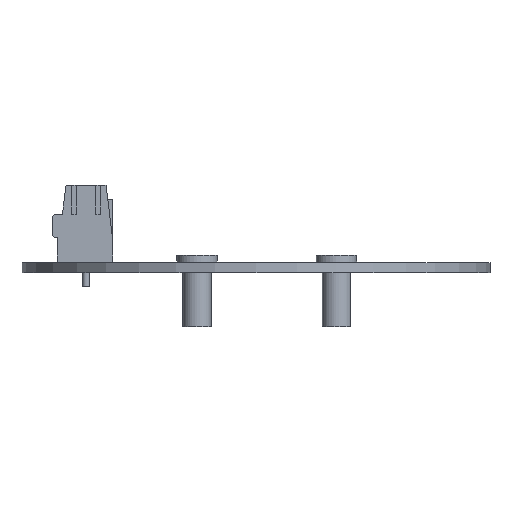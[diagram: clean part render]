
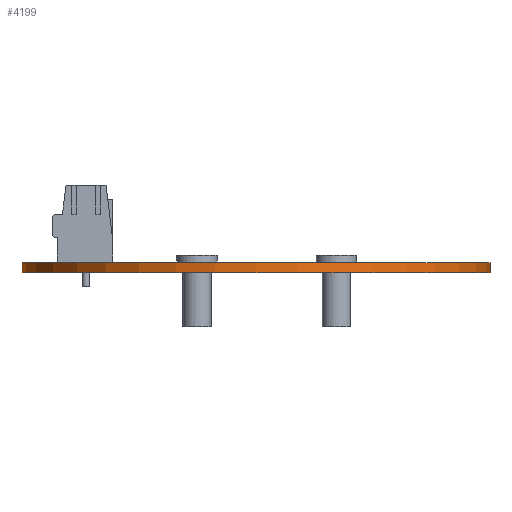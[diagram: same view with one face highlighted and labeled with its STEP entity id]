
A CAD part, front view. The second image highlights one B-rep face of the part: STEP entity #4199.
In plain terms, the highlighted cylindrical face has radius 34.764 mm (diameter 69.527 mm), a full revolution.
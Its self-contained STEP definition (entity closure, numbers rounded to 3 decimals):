
#4199 = ADVANCED_FACE('',(#4200),#4227,.T.);
#4200 = FACE_BOUND('',#4201,.F.);
#4201 = EDGE_LOOP('',(#4202,#4212,#4219,#4220));
#4202 = ORIENTED_EDGE('',*,*,#4203,.T.);
#4203 = EDGE_CURVE('',#4204,#4206,#4208,.T.);
#4204 = VERTEX_POINT('',#4205);
#4205 = CARTESIAN_POINT('',(116.013,-55.675,0.));
#4206 = VERTEX_POINT('',#4207);
#4207 = CARTESIAN_POINT('',(116.013,-55.675,1.51));
#4208 = LINE('',#4209,#4210);
#4209 = CARTESIAN_POINT('',(116.013,-55.675,0.));
#4210 = VECTOR('',#4211,1.);
#4211 = DIRECTION('',(0.,0.,1.));
#4212 = ORIENTED_EDGE('',*,*,#4213,.T.);
#4213 = EDGE_CURVE('',#4206,#4206,#4214,.T.);
#4214 = CIRCLE('',#4215,34.763);
#4215 = AXIS2_PLACEMENT_3D('',#4216,#4217,#4218);
#4216 = CARTESIAN_POINT('',(81.25,-55.675,1.51));
#4217 = DIRECTION('',(0.,0.,1.));
#4218 = DIRECTION('',(1.,0.,-0.));
#4219 = ORIENTED_EDGE('',*,*,#4203,.F.);
#4220 = ORIENTED_EDGE('',*,*,#4221,.F.);
#4221 = EDGE_CURVE('',#4204,#4204,#4222,.T.);
#4222 = CIRCLE('',#4223,34.763);
#4223 = AXIS2_PLACEMENT_3D('',#4224,#4225,#4226);
#4224 = CARTESIAN_POINT('',(81.25,-55.675,0.));
#4225 = DIRECTION('',(0.,0.,1.));
#4226 = DIRECTION('',(1.,0.,-0.));
#4227 = CYLINDRICAL_SURFACE('',#4228,34.763);
#4228 = AXIS2_PLACEMENT_3D('',#4229,#4230,#4231);
#4229 = CARTESIAN_POINT('',(81.25,-55.675,0.));
#4230 = DIRECTION('',(-0.,-0.,-1.));
#4231 = DIRECTION('',(1.,0.,-0.));
